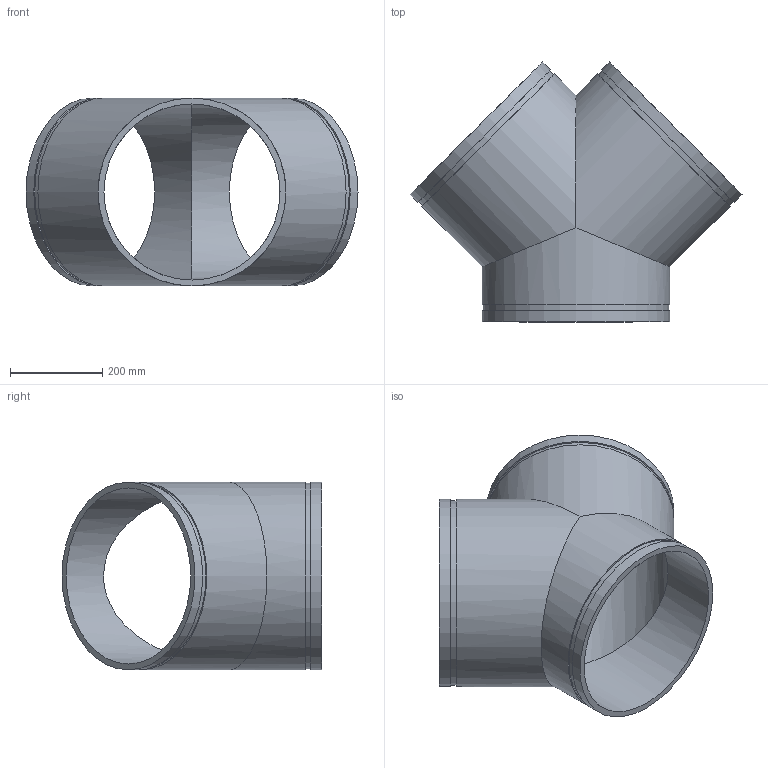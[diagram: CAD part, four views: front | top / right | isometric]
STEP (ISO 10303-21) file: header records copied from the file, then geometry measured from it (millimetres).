
FILE_DESCRIPTION(/* description */ ('This is default description.','CAx-IF Rec.Pracs.---Representation and Presentation of Product Manufacturing Information (PMI)---4.0---2014-10-13'),/* implementation_level */ '2;1');
FILE_NAME(/* name */ 'C:\Users\kkamble\AppData\Roaming\Autodesk\ApplicationPlugins\Back Up\Victaulic_IPS-Tee- Wye_ No 33 SWS (OGS)\Victaulic_IPS-Tee- Wye_ No 33 SWS (OGS)_16.stp',/* time_stamp */ '2020-09-16T22:08:44+06:00',/* author */ ('cgray'),/* organization */ ('Victaulic'),/* preprocessor_version */ 'ST-DEVELOPER v17.2',/* originating_system */ 'Autodesk Inventor 2019',/* authorisation */ '');
FILE_SCHEMA (('AP242_MANAGED_MODEL_BASED_3D_ENGINEERING_MIM_LF { 1 0 10303 442 1 1 4 }'));
Length unit declared in the file: inch
Products named in the file (1): 33 SWS-16.0
Bounding box: 718.42 x 562.41 x 406.4 mm (x, y, z)
Volume: 9032540.5 mm3; surface area: 1510832.5 mm2
Topology: 1 solids, 1 shells, 21 faces, 48 edges, 34 vertices
Faces by surface type: cylinder 12, plane 9
Full cylindrical faces by diameter (mm): 381 x3, 400.837 x3, 406.4 x6
Entity records: 787 total; most frequent: DIRECTION 154, CARTESIAN_POINT 121, ORIENTED_EDGE 96, AXIS2_PLACEMENT_3D 71, EDGE_CURVE 48, VERTEX_POINT 34, EDGE_LOOP 30, CIRCLE 26
